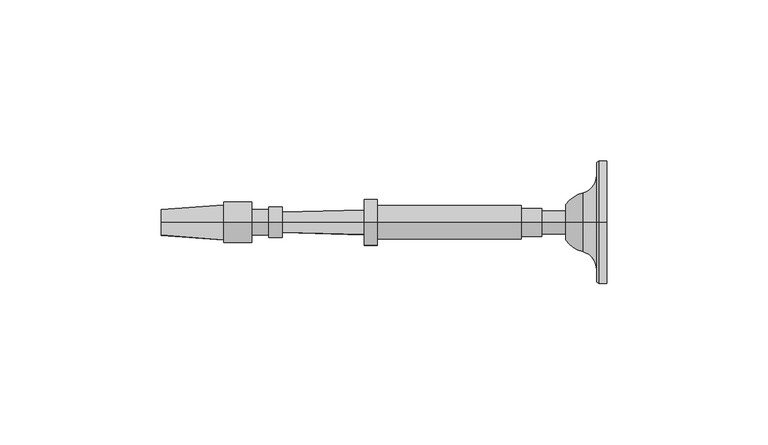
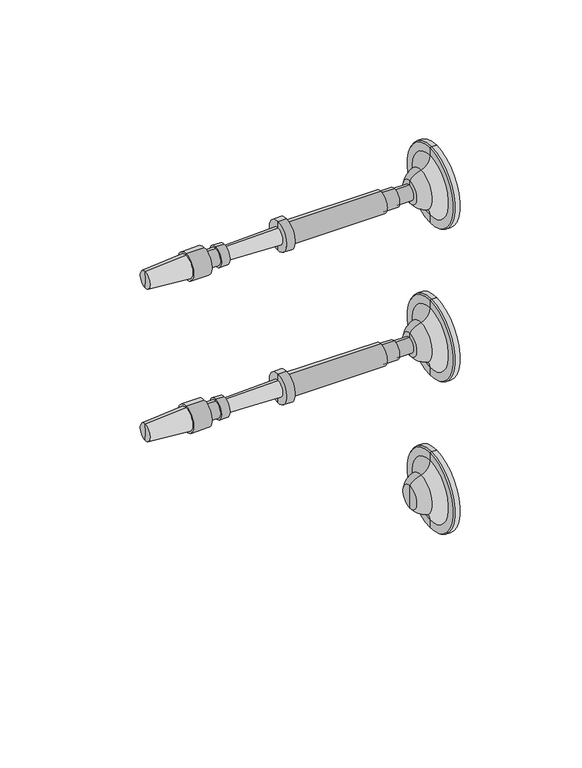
"""IFC4 building model written with IfcOpenShell, lengths in millimetres: railing geometry, RAILEASY CABLE RAILING CORNER TENSIONERS STAIR."""

from ifc_helpers import new_model, si_unit, point, frame, origin, place, context, project, spatial, polyline, circle_curve, ellipse_curve, trimmed, source, transform, mapped, element, save
from ifc_brep_helpers import plane_surface, cylinder_surface, revolved_surface, advanced_brep


def railing_382be00a(model_context):
    return source(origin(), model_context, "Body", "AdvancedBrep", [
        advanced_brep(
        [(4045.1015906, 16706.2866843, 32915.0001631), (4045.1015906, 16706.2866843, 32934.0501631), (4045.1015906, 16706.2866843, 32895.9501631), (4032.408954, 16706.2866843, 32909.4769785), (4032.408954, 16706.2866843, 32920.5233478), (4032.408954, 16706.2866843, 32915.0001631), (4037.6850504, 16706.2866843, 32905.8720381), (4037.6850504, 16706.2866843, 32924.1282881), (4042.0506754, 16706.2866843, 32900.2458254), (4042.0506754, 16706.2866843, 32929.7545009), (4042.0506754, 16706.2866843, 32896.3762941), (4042.0506754, 16706.2866843, 32933.6240321), (4042.7203406, 16706.2866843, 32895.9501631), (4042.7203406, 16706.2866843, 32934.0501631)],
        [
            (0, 1),
            (1, 2, circle_curve(frame((4045.1015906, 16706.2866843, 32915.0001631), z_axis=(1.0, 0.0, 0.0), x_axis=(0.0, 0.0, 1.0)), 19.05)),
            (2, 0),
            (2, 1, circle_curve(frame((4045.1015906, 16706.2866843, 32915.0001631), z_axis=(1.0, 0.0, 0.0), x_axis=(0.0, 0.0, 1.0)), 19.05)),
            (3, 4, circle_curve(frame((4032.408954, 16706.2866843, 32915.0001631), z_axis=(-1.0, 0.0, 0.0), x_axis=(0.0, 0.0, 1.0)), 5.5231846)),
            (4, 5),
            (5, 3),
            (4, 3, circle_curve(frame((4032.408954, 16706.2866843, 32915.0001631), z_axis=(-1.0, 0.0, 0.0), x_axis=(0.0, 0.0, 1.0)), 5.5231846)),
            (6, 7, circle_curve(frame((4037.6850504, 16706.2866843, 32915.0001631), z_axis=(-1.0, 0.0, 0.0), x_axis=(0.0, 0.0, 1.0)), 9.128125)),
            (7, 4, circle_curve(frame((4040.0094591, 16706.2866843, 32915.0628958), z_axis=(0.0, -1.0, 0.0), x_axis=(-1.0, 0.0, 0.0)), 9.3586438)),
            (3, 6, circle_curve(frame((4040.0094591, 16706.2866843, 32914.9374304), z_axis=(0.0, -1.0, 0.0), x_axis=(-1.0, 0.0, 0.0)), 9.3586438)),
            (7, 6, circle_curve(frame((4037.6850504, 16706.2866843, 32915.0001631), z_axis=(-1.0, 0.0, 0.0), x_axis=(0.0, 0.0, 1.0)), 9.128125)),
            (8, 9, circle_curve(frame((4042.0506754, 16706.2866843, 32915.0001631), z_axis=(-1.0, 0.0, 0.0), x_axis=(0.0, 0.0, 1.0)), 14.7543378)),
            (9, 7, circle_curve(frame((4036.2424634, 16706.2866843, 32929.7545009), z_axis=(0.0, 1.0, 0.0), x_axis=(-1.0, 0.0, 0.0)), 5.8082121)),
            (6, 8, circle_curve(frame((4036.2424634, 16706.2866843, 32900.2458254), z_axis=(0.0, 1.0, 0.0), x_axis=(-1.0, 0.0, 0.0)), 5.8082121)),
            (9, 8, circle_curve(frame((4042.0506754, 16706.2866843, 32915.0001631), z_axis=(-1.0, 0.0, 0.0), x_axis=(0.0, 0.0, 1.0)), 14.7543378)),
            (10, 11, circle_curve(frame((4042.0506754, 16706.2866843, 32915.0001631), z_axis=(-1.0, 0.0, 0.0), x_axis=(0.0, 0.0, 1.0)), 18.623869)),
            (11, 9),
            (8, 10),
            (11, 10, circle_curve(frame((4042.0506754, 16706.2866843, 32915.0001631), z_axis=(-1.0, 0.0, 0.0), x_axis=(0.0, 0.0, 1.0)), 18.623869)),
            (12, 13, circle_curve(frame((4042.7203406, 16706.2866843, 32915.0001631), z_axis=(-1.0, 0.0, 0.0), x_axis=(0.0, 0.0, 1.0)), 19.05)),
            (13, 11),
            (10, 12),
            (13, 12, circle_curve(frame((4042.7203406, 16706.2866843, 32915.0001631), z_axis=(-1.0, 0.0, 0.0), x_axis=(0.0, 0.0, 1.0)), 19.05)),
            (1, 13),
            (12, 2),
        ],
        [
            plane_surface(frame((4045.1015906, 16706.2866843, 32915.0001631), z_axis=(1.0, 0.0, 0.0), x_axis=(0.0, 0.0, 1.0))),
            plane_surface(frame((4032.408954, 16706.2866843, 32915.0001631), z_axis=(-1.0, 0.0, 0.0), x_axis=(0.0, 0.0, 1.0))),
            revolved_surface(trimmed(ellipse_curve(frame((4040.0094591, 16706.2866843, 32915.0628958), z_axis=(0.0, 1.0, 0.0), x_axis=(-1.0, 0.0, 0.0)), 9.3586438, 9.3586438), [point((4032.408954, 16706.2866843, 32920.5233478))], [point((4037.6850504, 16706.2866843, 32924.1282881))], True, "CARTESIAN"), (4045.1015906, 16706.2866843, 32915.0001631), (1.0, 0.0, 0.0)),
            revolved_surface(trimmed(ellipse_curve(frame((4036.2424634, 16706.2866843, 32929.7545009), z_axis=(0.0, -1.0, 0.0), x_axis=(-1.0, 0.0, 0.0)), 5.8082121, 5.8082121), [point((4037.6850504, 16706.2866843, 32924.1282881))], [point((4042.0506754, 16706.2866843, 32929.7545009))], True, "CARTESIAN"), (4045.1015906, 16706.2866843, 32915.0001631), (1.0, 0.0, 0.0)),
            plane_surface(frame((4042.0506754, 16706.2866843, 32915.0001631), z_axis=(-1.0, 0.0, 0.0), x_axis=(0.0, 0.0, 1.0))),
            revolved_surface(polyline([(4042.0506754, 16706.2866843, 32933.6240321), (4042.7203406, 16706.2866843, 32934.0501631)]), (4045.1015906, 16706.2866843, 32915.0001631), (1.0, 0.0, 0.0)),
            cylinder_surface(frame((4045.1015906, 16706.2866843, 32915.0001631), z_axis=(1.0, 0.0, 0.0), x_axis=(0.0, 0.0, 1.0)), 19.05),
        ],
        [
            (0, [[1, 2, 3]]),
            (0, [[-3, 4, -1]]),
            (1, [[5, 6, 7]]),
            (1, [[8, -7, -6]]),
            (2, [[9, 10, -5, 11]]),
            (2, [[12, -11, -8, -10]]),
            (3, [[13, 14, -9, 15]]),
            (3, [[16, -15, -12, -14]]),
            (4, [[17, 18, -13, 19]]),
            (4, [[20, -19, -16, -18]]),
            (5, [[21, 22, -17, 23]]),
            (5, [[24, -23, -20, -22]]),
            (6, [[-2, 25, -21, 26]]),
            (6, [[-4, -26, -24, -25]]),
        ],
    ),
        advanced_brep(
        [(4032.408954, 16706.2866843, 32911.4282881), (4032.408954, 16706.2866843, 32915.0001631), (4032.408954, 16706.2866843, 32918.5720381), (3907.4650648, 16706.2866843, 32915.0001631), (3907.1694004, 16706.2866843, 32910.9757028), (3907.1694004, 16706.2866843, 32919.0246235), (3926.5127644, 16706.2866843, 32909.5546072), (3926.5127644, 16706.2866843, 32920.445719), (3926.5127644, 16706.2866843, 32908.6616385), (3926.5127644, 16706.2866843, 32921.3386877), (3935.1447956, 16706.2866843, 32908.6616385), (3935.1447956, 16706.2866843, 32921.3386877), (3935.1447956, 16706.2866843, 32911.0428885), (3935.1447956, 16706.2866843, 32918.9574377), (3940.5026081, 16706.2866843, 32911.0428885), (3940.5026081, 16706.2866843, 32918.9574377), (3940.5026081, 16706.2866843, 32910.2491385), (3940.5026081, 16706.2866843, 32919.7511877), (3944.5705769, 16706.2866843, 32910.2491385), (3944.5705769, 16706.2866843, 32919.7511877), (3944.614664, 16706.2866843, 32911.8360262), (3944.614664, 16706.2866843, 32918.1643), (3970.0048672, 16706.2866843, 32911.1306319), (3970.0048672, 16706.2866843, 32918.8696944), (3970.0048672, 16706.2866843, 32907.8564131), (3970.0048672, 16706.2866843, 32922.1439131), (3973.9736172, 16706.2866843, 32907.8564131), (3973.9736172, 16706.2866843, 32922.1439131), (3973.9736172, 16706.2866843, 32909.8407881), (3973.9736172, 16706.2866843, 32920.1595381), (4018.7212735, 16706.2866843, 32909.8407881), (4018.7212735, 16706.2866843, 32920.1595381), (4018.7212735, 16706.2866843, 32910.6345381), (4018.7212735, 16706.2866843, 32919.3657881), (4025.0712735, 16706.2866843, 32910.6345381), (4025.0712735, 16706.2866843, 32919.3657881), (4025.0712735, 16706.2866843, 32911.4282881), (4025.0712735, 16706.2866843, 32918.5720381)],
        [
            (0, 1),
            (1, 2),
            (2, 0, circle_curve(frame((4032.408954, 16706.2866843, 32915.0001631), z_axis=(1.0, 0.0, 0.0), x_axis=(0.0, 0.0, 1.0000000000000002)), 3.571875)),
            (0, 2, circle_curve(frame((4032.408954, 16706.2866843, 32915.0001631), z_axis=(1.0, 0.0, 0.0), x_axis=(0.0, 0.0, 1.0000000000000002)), 3.571875)),
            (3, 4),
            (4, 5, circle_curve(frame((3907.1694004, 16706.2866843, 32915.0001631), z_axis=(-1.0, 0.0, 0.0), x_axis=(0.0, 0.0, 1.0000000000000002)), 4.0244604)),
            (5, 3),
            (5, 4, circle_curve(frame((3907.1694004, 16706.2866843, 32915.0001631), z_axis=(-1.0, 0.0, 0.0), x_axis=(0.0, 0.0, 1.0000000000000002)), 4.0244604)),
            (4, 6),
            (6, 7, circle_curve(frame((3926.5127644, 16706.2866843, 32915.0001631), z_axis=(-1.0, 0.0, 0.0), x_axis=(0.0, 0.0, 1.0000000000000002)), 5.4455559)),
            (7, 5),
            (7, 6, circle_curve(frame((3926.5127644, 16706.2866843, 32915.0001631), z_axis=(-1.0, 0.0, 0.0), x_axis=(0.0, 0.0, 1.0000000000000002)), 5.4455559)),
            (6, 8),
            (8, 9, circle_curve(frame((3926.5127644, 16706.2866843, 32915.0001631), z_axis=(-1.0, 0.0, 0.0), x_axis=(0.0, 0.0, 1.0000000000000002)), 6.3385246)),
            (9, 7),
            (9, 8, circle_curve(frame((3926.5127644, 16706.2866843, 32915.0001631), z_axis=(-1.0, 0.0, 0.0), x_axis=(0.0, 0.0, 1.0000000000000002)), 6.3385246)),
            (8, 10),
            (10, 11, circle_curve(frame((3935.1447956, 16706.2866843, 32915.0001631), z_axis=(-1.0, 0.0, 0.0), x_axis=(0.0, 0.0, 1.0000000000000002)), 6.3385246)),
            (11, 9),
            (11, 10, circle_curve(frame((3935.1447956, 16706.2866843, 32915.0001631), z_axis=(-1.0, 0.0, 0.0), x_axis=(0.0, 0.0, 1.0000000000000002)), 6.3385246)),
            (10, 12),
            (12, 13, circle_curve(frame((3935.1447956, 16706.2866843, 32915.0001631), z_axis=(-1.0, 0.0, 0.0), x_axis=(0.0, 0.0, 1.0000000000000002)), 3.9572746)),
            (13, 11),
            (13, 12, circle_curve(frame((3935.1447956, 16706.2866843, 32915.0001631), z_axis=(-1.0, 0.0, 0.0), x_axis=(0.0, 0.0, 1.0000000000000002)), 3.9572746)),
            (12, 14),
            (14, 15, circle_curve(frame((3940.5026081, 16706.2866843, 32915.0001631), z_axis=(-1.0, 0.0, 0.0), x_axis=(0.0, 0.0, 1.0000000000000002)), 3.9572746)),
            (15, 13),
            (15, 14, circle_curve(frame((3940.5026081, 16706.2866843, 32915.0001631), z_axis=(-1.0, 0.0, 0.0), x_axis=(0.0, 0.0, 1.0000000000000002)), 3.9572746)),
            (14, 16),
            (16, 17, circle_curve(frame((3940.5026081, 16706.2866843, 32915.0001631), z_axis=(-1.0, 0.0, 0.0), x_axis=(0.0, 0.0, 1.0000000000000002)), 4.7510246)),
            (17, 15),
            (17, 16, circle_curve(frame((3940.5026081, 16706.2866843, 32915.0001631), z_axis=(-1.0, 0.0, 0.0), x_axis=(0.0, 0.0, 1.0000000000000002)), 4.7510246)),
            (16, 18),
            (18, 19, circle_curve(frame((3944.5705769, 16706.2866843, 32915.0001631), z_axis=(-1.0, 0.0, 0.0), x_axis=(0.0, 0.0, 1.0000000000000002)), 4.7510246)),
            (19, 17),
            (19, 18, circle_curve(frame((3944.5705769, 16706.2866843, 32915.0001631), z_axis=(-1.0, 0.0, 0.0), x_axis=(0.0, 0.0, 1.0000000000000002)), 4.7510246)),
            (18, 20),
            (20, 21, circle_curve(frame((3944.614664, 16706.2866843, 32915.0001631), z_axis=(-1.0, 0.0, 0.0), x_axis=(0.0, 0.0, 1.0000000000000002)), 3.1641369)),
            (21, 19),
            (21, 20, circle_curve(frame((3944.614664, 16706.2866843, 32915.0001631), z_axis=(-1.0, 0.0, 0.0), x_axis=(0.0, 0.0, 1.0000000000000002)), 3.1641369)),
            (20, 22),
            (22, 23, circle_curve(frame((3970.0048672, 16706.2866843, 32915.0001631), z_axis=(-1.0, 0.0, 0.0), x_axis=(0.0, 0.0, 1.0000000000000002)), 3.8695313)),
            (23, 21),
            (23, 22, circle_curve(frame((3970.0048672, 16706.2866843, 32915.0001631), z_axis=(-1.0, 0.0, 0.0), x_axis=(0.0, 0.0, 1.0000000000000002)), 3.8695313)),
            (22, 24),
            (24, 25, circle_curve(frame((3970.0048672, 16706.2866843, 32915.0001631), z_axis=(-1.0, 0.0, 0.0), x_axis=(0.0, 0.0, 1.0000000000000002)), 7.14375)),
            (25, 23),
            (25, 24, circle_curve(frame((3970.0048672, 16706.2866843, 32915.0001631), z_axis=(-1.0, 0.0, 0.0), x_axis=(0.0, 0.0, 1.0000000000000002)), 7.14375)),
            (24, 26),
            (26, 27, circle_curve(frame((3973.9736172, 16706.2866843, 32915.0001631), z_axis=(-1.0, 0.0, 0.0), x_axis=(0.0, 0.0, 1.0000000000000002)), 7.14375)),
            (27, 25),
            (27, 26, circle_curve(frame((3973.9736172, 16706.2866843, 32915.0001631), z_axis=(-1.0, 0.0, 0.0), x_axis=(0.0, 0.0, 1.0000000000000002)), 7.14375)),
            (26, 28),
            (28, 29, circle_curve(frame((3973.9736172, 16706.2866843, 32915.0001631), z_axis=(-1.0, 0.0, 0.0), x_axis=(0.0, 0.0, 1.0000000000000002)), 5.159375)),
            (29, 27),
            (29, 28, circle_curve(frame((3973.9736172, 16706.2866843, 32915.0001631), z_axis=(-1.0, 0.0, 0.0), x_axis=(0.0, 0.0, 1.0000000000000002)), 5.159375)),
            (28, 30),
            (30, 31, circle_curve(frame((4018.7212735, 16706.2866843, 32915.0001631), z_axis=(-1.0, 0.0, 0.0), x_axis=(0.0, 0.0, 1.0000000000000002)), 5.159375)),
            (31, 29),
            (31, 30, circle_curve(frame((4018.7212735, 16706.2866843, 32915.0001631), z_axis=(-1.0, 0.0, 0.0), x_axis=(0.0, 0.0, 1.0000000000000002)), 5.159375)),
            (30, 32),
            (32, 33, circle_curve(frame((4018.7212735, 16706.2866843, 32915.0001631), z_axis=(-1.0, 0.0, 0.0), x_axis=(0.0, 0.0, 1.0000000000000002)), 4.365625)),
            (33, 31),
            (33, 32, circle_curve(frame((4018.7212735, 16706.2866843, 32915.0001631), z_axis=(-1.0, 0.0, 0.0), x_axis=(0.0, 0.0, 1.0000000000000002)), 4.365625)),
            (32, 34),
            (34, 35, circle_curve(frame((4025.0712735, 16706.2866843, 32915.0001631), z_axis=(-1.0, 0.0, 0.0), x_axis=(0.0, 0.0, 1.0000000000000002)), 4.365625)),
            (35, 33),
            (35, 34, circle_curve(frame((4025.0712735, 16706.2866843, 32915.0001631), z_axis=(-1.0, 0.0, 0.0), x_axis=(0.0, 0.0, 1.0000000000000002)), 4.365625)),
            (34, 36),
            (36, 37, circle_curve(frame((4025.0712735, 16706.2866843, 32915.0001631), z_axis=(-1.0, 0.0, 0.0), x_axis=(0.0, 0.0, 1.0000000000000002)), 3.571875)),
            (37, 35),
            (37, 36, circle_curve(frame((4025.0712735, 16706.2866843, 32915.0001631), z_axis=(-1.0, 0.0, 0.0), x_axis=(0.0, 0.0, 1.0000000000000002)), 3.571875)),
            (36, 0),
            (2, 37),
        ],
        [
            plane_surface(frame((4032.408954, 16706.2866843, 32915.0001631), z_axis=(1.0, 0.0, 0.0), x_axis=(0.0, 0.0, 1.0))),
            revolved_surface(polyline([(3907.1694004, 16706.2866843, 32919.0246235), (3907.4650648, 16706.2866843, 32915.0001631)]), (3907.4650648, 16706.2866843, 32915.0001631), (-1.0, 0.0, 0.0)),
            revolved_surface(polyline([(3926.5127644, 16706.2866843, 32920.445719), (3907.1694004, 16706.2866843, 32919.0246235)]), (3907.4650648, 16706.2866843, 32915.0001631), (-1.0, 0.0, 0.0)),
            plane_surface(frame((3926.5127644, 16706.2866843, 32915.0001631), z_axis=(-1.0, 0.0, 0.0), x_axis=(0.0, 0.0, 1.0))),
            cylinder_surface(frame((3907.4650648, 16706.2866843, 32915.0001631), z_axis=(-1.0, 0.0, 0.0), x_axis=(0.0, 0.0, 1.0000000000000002)), 6.3385246),
            plane_surface(frame((3935.1447956, 16706.2866843, 32915.0001631), z_axis=(1.0, 0.0, 0.0), x_axis=(0.0, 0.0, 1.0))),
            cylinder_surface(frame((3907.4650648, 16706.2866843, 32915.0001631), z_axis=(-1.0, 0.0, 0.0), x_axis=(0.0, 0.0, 1.0000000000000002)), 3.9572746),
            plane_surface(frame((3940.5026081, 16706.2866843, 32915.0001631), z_axis=(-1.0, 0.0, 0.0), x_axis=(0.0, 0.0, 1.0))),
            cylinder_surface(frame((3907.4650648, 16706.2866843, 32915.0001631), z_axis=(-1.0, 0.0, 0.0), x_axis=(0.0, 0.0, 1.0000000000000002)), 4.7510246),
            plane_surface(frame((3944.614664, 16706.2866843, 32915.0001631), z_axis=(1.0, 0.0, 0.0), x_axis=(0.0, 0.0, 1.0))),
            revolved_surface(polyline([(3970.0048672, 16706.2866843, 32918.8696944), (3944.614664, 16706.2866843, 32918.1643)]), (3907.4650648, 16706.2866843, 32915.0001631), (-1.0, 0.0, 0.0)),
            plane_surface(frame((3970.0048672, 16706.2866843, 32915.0001631), z_axis=(-1.0, 0.0, 0.0), x_axis=(0.0, 0.0, 1.0))),
            cylinder_surface(frame((3907.4650648, 16706.2866843, 32915.0001631), z_axis=(-1.0, 0.0, 0.0), x_axis=(0.0, 0.0, 1.0000000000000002)), 7.14375),
            plane_surface(frame((3973.9736172, 16706.2866843, 32915.0001631), z_axis=(1.0, 0.0, 0.0), x_axis=(0.0, 0.0, 1.0))),
            cylinder_surface(frame((3907.4650648, 16706.2866843, 32915.0001631), z_axis=(-1.0, 0.0, 0.0), x_axis=(0.0, 0.0, 1.0000000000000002)), 5.159375),
            plane_surface(frame((4018.7212735, 16706.2866843, 32915.0001631), z_axis=(1.0, 0.0, 0.0), x_axis=(0.0, 0.0, 1.0))),
            cylinder_surface(frame((3907.4650648, 16706.2866843, 32915.0001631), z_axis=(-1.0, 0.0, 0.0), x_axis=(0.0, 0.0, 1.0000000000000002)), 4.365625),
            plane_surface(frame((4025.0712735, 16706.2866843, 32915.0001631), z_axis=(1.0, 0.0, 0.0), x_axis=(0.0, 0.0, 1.0))),
            cylinder_surface(frame((3907.4650648, 16706.2866843, 32915.0001631), z_axis=(-1.0, 0.0, 0.0), x_axis=(0.0, 0.0, 1.0000000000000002)), 3.571875),
        ],
        [
            (0, [[1, 2, 3]]),
            (0, [[-2, -1, 4]]),
            (1, [[5, 6, 7]]),
            (1, [[-7, 8, -5]]),
            (2, [[9, 10, 11, -6]]),
            (2, [[-11, 12, -9, -8]]),
            (3, [[13, 14, 15, -10]]),
            (3, [[-15, 16, -13, -12]]),
            (4, [[17, 18, 19, -14]]),
            (4, [[-19, 20, -17, -16]]),
            (5, [[21, 22, 23, -18]]),
            (5, [[-23, 24, -21, -20]]),
            (6, [[25, 26, 27, -22]]),
            (6, [[-27, 28, -25, -24]]),
            (7, [[29, 30, 31, -26]]),
            (7, [[-31, 32, -29, -28]]),
            (8, [[33, 34, 35, -30]]),
            (8, [[-35, 36, -33, -32]]),
            (9, [[37, 38, 39, -34]]),
            (9, [[-39, 40, -37, -36]]),
            (10, [[41, 42, 43, -38]]),
            (10, [[-43, 44, -41, -40]]),
            (11, [[45, 46, 47, -42]]),
            (11, [[-47, 48, -45, -44]]),
            (12, [[49, 50, 51, -46]]),
            (12, [[-51, 52, -49, -48]]),
            (13, [[53, 54, 55, -50]]),
            (13, [[-55, 56, -53, -52]]),
            (14, [[57, 58, 59, -54]]),
            (14, [[-59, 60, -57, -56]]),
            (15, [[61, 62, 63, -58]]),
            (15, [[-63, 64, -61, -60]]),
            (16, [[65, 66, 67, -62]]),
            (16, [[-67, 68, -65, -64]]),
            (17, [[69, 70, 71, -66]]),
            (17, [[-71, 72, -69, -68]]),
            (18, [[73, -3, 74, -70]]),
            (18, [[-74, -4, -73, -72]]),
        ],
    ),
        advanced_brep(
        [(4045.1015906, 16706.2866843, 32838.8001631), (4045.1015906, 16706.2866843, 32857.8501631), (4045.1015906, 16706.2866843, 32819.7501631), (4032.408954, 16706.2866843, 32833.2769785), (4032.408954, 16706.2866843, 32844.3233478), (4032.408954, 16706.2866843, 32838.8001631), (4037.6850504, 16706.2866843, 32829.6720381), (4037.6850504, 16706.2866843, 32847.9282881), (4042.0506754, 16706.2866843, 32824.0458254), (4042.0506754, 16706.2866843, 32853.5545009), (4042.0506754, 16706.2866843, 32820.1762941), (4042.0506754, 16706.2866843, 32857.4240321), (4042.7203406, 16706.2866843, 32819.7501631), (4042.7203406, 16706.2866843, 32857.8501631)],
        [
            (0, 1),
            (1, 2, circle_curve(frame((4045.1015906, 16706.2866843, 32838.8001631), z_axis=(1.0, 0.0, 0.0), x_axis=(0.0, 0.0, 1.0)), 19.05)),
            (2, 0),
            (2, 1, circle_curve(frame((4045.1015906, 16706.2866843, 32838.8001631), z_axis=(1.0, 0.0, 0.0), x_axis=(0.0, 0.0, 1.0)), 19.05)),
            (3, 4, circle_curve(frame((4032.408954, 16706.2866843, 32838.8001631), z_axis=(-1.0, 0.0, 0.0), x_axis=(0.0, 0.0, 1.0)), 5.5231846)),
            (4, 5),
            (5, 3),
            (4, 3, circle_curve(frame((4032.408954, 16706.2866843, 32838.8001631), z_axis=(-1.0, 0.0, 0.0), x_axis=(0.0, 0.0, 1.0)), 5.5231846)),
            (6, 7, circle_curve(frame((4037.6850504, 16706.2866843, 32838.8001631), z_axis=(-1.0, 0.0, 0.0), x_axis=(0.0, 0.0, 1.0)), 9.128125)),
            (7, 4, circle_curve(frame((4040.0094591, 16706.2866843, 32838.8628958), z_axis=(0.0, -1.0, 0.0), x_axis=(-1.0, 0.0, 0.0)), 9.3586438)),
            (3, 6, circle_curve(frame((4040.0094591, 16706.2866843, 32838.7374304), z_axis=(0.0, -1.0, 0.0), x_axis=(-1.0, 0.0, 0.0)), 9.3586438)),
            (7, 6, circle_curve(frame((4037.6850504, 16706.2866843, 32838.8001631), z_axis=(-1.0, 0.0, 0.0), x_axis=(0.0, 0.0, 1.0)), 9.128125)),
            (8, 9, circle_curve(frame((4042.0506754, 16706.2866843, 32838.8001631), z_axis=(-1.0, 0.0, 0.0), x_axis=(0.0, 0.0, 1.0)), 14.7543378)),
            (9, 7, circle_curve(frame((4036.2424634, 16706.2866843, 32853.5545009), z_axis=(0.0, 1.0, 0.0), x_axis=(-1.0, 0.0, 0.0)), 5.8082121)),
            (6, 8, circle_curve(frame((4036.2424634, 16706.2866843, 32824.0458254), z_axis=(0.0, 1.0, 0.0), x_axis=(-1.0, 0.0, 0.0)), 5.8082121)),
            (9, 8, circle_curve(frame((4042.0506754, 16706.2866843, 32838.8001631), z_axis=(-1.0, 0.0, 0.0), x_axis=(0.0, 0.0, 1.0)), 14.7543378)),
            (10, 11, circle_curve(frame((4042.0506754, 16706.2866843, 32838.8001631), z_axis=(-1.0, 0.0, 0.0), x_axis=(0.0, 0.0, 1.0)), 18.623869)),
            (11, 9),
            (8, 10),
            (11, 10, circle_curve(frame((4042.0506754, 16706.2866843, 32838.8001631), z_axis=(-1.0, 0.0, 0.0), x_axis=(0.0, 0.0, 1.0)), 18.623869)),
            (12, 13, circle_curve(frame((4042.7203406, 16706.2866843, 32838.8001631), z_axis=(-1.0, 0.0, 0.0), x_axis=(0.0, 0.0, 1.0)), 19.05)),
            (13, 11),
            (10, 12),
            (13, 12, circle_curve(frame((4042.7203406, 16706.2866843, 32838.8001631), z_axis=(-1.0, 0.0, 0.0), x_axis=(0.0, 0.0, 1.0)), 19.05)),
            (1, 13),
            (12, 2),
        ],
        [
            plane_surface(frame((4045.1015906, 16706.2866843, 32838.8001631), z_axis=(1.0, 0.0, 0.0), x_axis=(0.0, 0.0, 1.0))),
            plane_surface(frame((4032.408954, 16706.2866843, 32838.8001631), z_axis=(-1.0, 0.0, 0.0), x_axis=(0.0, 0.0, 1.0))),
            revolved_surface(trimmed(ellipse_curve(frame((4040.0094591, 16706.2866843, 32838.8628958), z_axis=(0.0, 1.0, 0.0), x_axis=(-1.0, 0.0, 0.0)), 9.3586438, 9.3586438), [point((4032.408954, 16706.2866843, 32844.3233478))], [point((4037.6850504, 16706.2866843, 32847.9282881))], True, "CARTESIAN"), (4045.1015906, 16706.2866843, 32838.8001631), (1.0, 0.0, 0.0)),
            revolved_surface(trimmed(ellipse_curve(frame((4036.2424634, 16706.2866843, 32853.5545009), z_axis=(0.0, -1.0, 0.0), x_axis=(-1.0, 0.0, 0.0)), 5.8082121, 5.8082121), [point((4037.6850504, 16706.2866843, 32847.9282881))], [point((4042.0506754, 16706.2866843, 32853.5545009))], True, "CARTESIAN"), (4045.1015906, 16706.2866843, 32838.8001631), (1.0, 0.0, 0.0)),
            plane_surface(frame((4042.0506754, 16706.2866843, 32838.8001631), z_axis=(-1.0, 0.0, 0.0), x_axis=(0.0, 0.0, 1.0))),
            revolved_surface(polyline([(4042.0506754, 16706.2866843, 32857.4240321), (4042.7203406, 16706.2866843, 32857.8501631)]), (4045.1015906, 16706.2866843, 32838.8001631), (1.0, 0.0, 0.0)),
            cylinder_surface(frame((4045.1015906, 16706.2866843, 32838.8001631), z_axis=(1.0, 0.0, 0.0), x_axis=(0.0, 0.0, 1.0)), 19.05),
        ],
        [
            (0, [[1, 2, 3]]),
            (0, [[-3, 4, -1]]),
            (1, [[5, 6, 7]]),
            (1, [[8, -7, -6]]),
            (2, [[9, 10, -5, 11]]),
            (2, [[12, -11, -8, -10]]),
            (3, [[13, 14, -9, 15]]),
            (3, [[16, -15, -12, -14]]),
            (4, [[17, 18, -13, 19]]),
            (4, [[20, -19, -16, -18]]),
            (5, [[21, 22, -17, 23]]),
            (5, [[24, -23, -20, -22]]),
            (6, [[-2, 25, -21, 26]]),
            (6, [[-4, -26, -24, -25]]),
        ],
    ),
        advanced_brep(
        [(4032.408954, 16706.2866843, 32835.2282881), (4032.408954, 16706.2866843, 32838.8001631), (4032.408954, 16706.2866843, 32842.3720381), (3907.4650648, 16706.2866843, 32838.8001631), (3907.1694004, 16706.2866843, 32834.7757028), (3907.1694004, 16706.2866843, 32842.8246235), (3926.5127644, 16706.2866843, 32833.3546072), (3926.5127644, 16706.2866843, 32844.245719), (3926.5127644, 16706.2866843, 32832.4616385), (3926.5127644, 16706.2866843, 32845.1386877), (3935.1447956, 16706.2866843, 32832.4616385), (3935.1447956, 16706.2866843, 32845.1386877), (3935.1447956, 16706.2866843, 32834.8428885), (3935.1447956, 16706.2866843, 32842.7574377), (3940.5026081, 16706.2866843, 32834.8428885), (3940.5026081, 16706.2866843, 32842.7574377), (3940.5026081, 16706.2866843, 32834.0491385), (3940.5026081, 16706.2866843, 32843.5511877), (3944.5705769, 16706.2866843, 32834.0491385), (3944.5705769, 16706.2866843, 32843.5511877), (3944.614664, 16706.2866843, 32835.6360262), (3944.614664, 16706.2866843, 32841.9643), (3970.0048672, 16706.2866843, 32834.9306319), (3970.0048672, 16706.2866843, 32842.6696944), (3970.0048672, 16706.2866843, 32831.6564131), (3970.0048672, 16706.2866843, 32845.9439131), (3973.9736172, 16706.2866843, 32831.6564131), (3973.9736172, 16706.2866843, 32845.9439131), (3973.9736172, 16706.2866843, 32833.6407881), (3973.9736172, 16706.2866843, 32843.9595381), (4018.7212735, 16706.2866843, 32833.6407881), (4018.7212735, 16706.2866843, 32843.9595381), (4018.7212735, 16706.2866843, 32834.4345381), (4018.7212735, 16706.2866843, 32843.1657881), (4025.0712735, 16706.2866843, 32834.4345381), (4025.0712735, 16706.2866843, 32843.1657881), (4025.0712735, 16706.2866843, 32835.2282881), (4025.0712735, 16706.2866843, 32842.3720381)],
        [
            (0, 1),
            (1, 2),
            (2, 0, circle_curve(frame((4032.408954, 16706.2866843, 32838.8001631), z_axis=(1.0, 0.0, 0.0), x_axis=(0.0, 0.0, 1.0000000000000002)), 3.571875)),
            (0, 2, circle_curve(frame((4032.408954, 16706.2866843, 32838.8001631), z_axis=(1.0, 0.0, 0.0), x_axis=(0.0, 0.0, 1.0000000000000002)), 3.571875)),
            (3, 4),
            (4, 5, circle_curve(frame((3907.1694004, 16706.2866843, 32838.8001631), z_axis=(-1.0, 0.0, 0.0), x_axis=(0.0, 0.0, 1.0000000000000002)), 4.0244604)),
            (5, 3),
            (5, 4, circle_curve(frame((3907.1694004, 16706.2866843, 32838.8001631), z_axis=(-1.0, 0.0, 0.0), x_axis=(0.0, 0.0, 1.0000000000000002)), 4.0244604)),
            (4, 6),
            (6, 7, circle_curve(frame((3926.5127644, 16706.2866843, 32838.8001631), z_axis=(-1.0, 0.0, 0.0), x_axis=(0.0, 0.0, 1.0000000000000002)), 5.4455559)),
            (7, 5),
            (7, 6, circle_curve(frame((3926.5127644, 16706.2866843, 32838.8001631), z_axis=(-1.0, 0.0, 0.0), x_axis=(0.0, 0.0, 1.0000000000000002)), 5.4455559)),
            (6, 8),
            (8, 9, circle_curve(frame((3926.5127644, 16706.2866843, 32838.8001631), z_axis=(-1.0, 0.0, 0.0), x_axis=(0.0, 0.0, 1.0000000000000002)), 6.3385246)),
            (9, 7),
            (9, 8, circle_curve(frame((3926.5127644, 16706.2866843, 32838.8001631), z_axis=(-1.0, 0.0, 0.0), x_axis=(0.0, 0.0, 1.0000000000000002)), 6.3385246)),
            (8, 10),
            (10, 11, circle_curve(frame((3935.1447956, 16706.2866843, 32838.8001631), z_axis=(-1.0, 0.0, 0.0), x_axis=(0.0, 0.0, 1.0000000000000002)), 6.3385246)),
            (11, 9),
            (11, 10, circle_curve(frame((3935.1447956, 16706.2866843, 32838.8001631), z_axis=(-1.0, 0.0, 0.0), x_axis=(0.0, 0.0, 1.0000000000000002)), 6.3385246)),
            (10, 12),
            (12, 13, circle_curve(frame((3935.1447956, 16706.2866843, 32838.8001631), z_axis=(-1.0, 0.0, 0.0), x_axis=(0.0, 0.0, 1.0000000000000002)), 3.9572746)),
            (13, 11),
            (13, 12, circle_curve(frame((3935.1447956, 16706.2866843, 32838.8001631), z_axis=(-1.0, 0.0, 0.0), x_axis=(0.0, 0.0, 1.0000000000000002)), 3.9572746)),
            (12, 14),
            (14, 15, circle_curve(frame((3940.5026081, 16706.2866843, 32838.8001631), z_axis=(-1.0, 0.0, 0.0), x_axis=(0.0, 0.0, 1.0000000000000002)), 3.9572746)),
            (15, 13),
            (15, 14, circle_curve(frame((3940.5026081, 16706.2866843, 32838.8001631), z_axis=(-1.0, 0.0, 0.0), x_axis=(0.0, 0.0, 1.0000000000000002)), 3.9572746)),
            (14, 16),
            (16, 17, circle_curve(frame((3940.5026081, 16706.2866843, 32838.8001631), z_axis=(-1.0, 0.0, 0.0), x_axis=(0.0, 0.0, 1.0000000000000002)), 4.7510246)),
            (17, 15),
            (17, 16, circle_curve(frame((3940.5026081, 16706.2866843, 32838.8001631), z_axis=(-1.0, 0.0, 0.0), x_axis=(0.0, 0.0, 1.0000000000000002)), 4.7510246)),
            (16, 18),
            (18, 19, circle_curve(frame((3944.5705769, 16706.2866843, 32838.8001631), z_axis=(-1.0, 0.0, 0.0), x_axis=(0.0, 0.0, 1.0000000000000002)), 4.7510246)),
            (19, 17),
            (19, 18, circle_curve(frame((3944.5705769, 16706.2866843, 32838.8001631), z_axis=(-1.0, 0.0, 0.0), x_axis=(0.0, 0.0, 1.0000000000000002)), 4.7510246)),
            (18, 20),
            (20, 21, circle_curve(frame((3944.614664, 16706.2866843, 32838.8001631), z_axis=(-1.0, 0.0, 0.0), x_axis=(0.0, 0.0, 1.0000000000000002)), 3.1641369)),
            (21, 19),
            (21, 20, circle_curve(frame((3944.614664, 16706.2866843, 32838.8001631), z_axis=(-1.0, 0.0, 0.0), x_axis=(0.0, 0.0, 1.0000000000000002)), 3.1641369)),
            (20, 22),
            (22, 23, circle_curve(frame((3970.0048672, 16706.2866843, 32838.8001631), z_axis=(-1.0, 0.0, 0.0), x_axis=(0.0, 0.0, 1.0000000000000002)), 3.8695313)),
            (23, 21),
            (23, 22, circle_curve(frame((3970.0048672, 16706.2866843, 32838.8001631), z_axis=(-1.0, 0.0, 0.0), x_axis=(0.0, 0.0, 1.0000000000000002)), 3.8695313)),
            (22, 24),
            (24, 25, circle_curve(frame((3970.0048672, 16706.2866843, 32838.8001631), z_axis=(-1.0, 0.0, 0.0), x_axis=(0.0, 0.0, 1.0000000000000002)), 7.14375)),
            (25, 23),
            (25, 24, circle_curve(frame((3970.0048672, 16706.2866843, 32838.8001631), z_axis=(-1.0, 0.0, 0.0), x_axis=(0.0, 0.0, 1.0000000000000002)), 7.14375)),
            (24, 26),
            (26, 27, circle_curve(frame((3973.9736172, 16706.2866843, 32838.8001631), z_axis=(-1.0, 0.0, 0.0), x_axis=(0.0, 0.0, 1.0000000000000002)), 7.14375)),
            (27, 25),
            (27, 26, circle_curve(frame((3973.9736172, 16706.2866843, 32838.8001631), z_axis=(-1.0, 0.0, 0.0), x_axis=(0.0, 0.0, 1.0000000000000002)), 7.14375)),
            (26, 28),
            (28, 29, circle_curve(frame((3973.9736172, 16706.2866843, 32838.8001631), z_axis=(-1.0, 0.0, 0.0), x_axis=(0.0, 0.0, 1.0000000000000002)), 5.159375)),
            (29, 27),
            (29, 28, circle_curve(frame((3973.9736172, 16706.2866843, 32838.8001631), z_axis=(-1.0, 0.0, 0.0), x_axis=(0.0, 0.0, 1.0000000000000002)), 5.159375)),
            (28, 30),
            (30, 31, circle_curve(frame((4018.7212735, 16706.2866843, 32838.8001631), z_axis=(-1.0, 0.0, 0.0), x_axis=(0.0, 0.0, 1.0000000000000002)), 5.159375)),
            (31, 29),
            (31, 30, circle_curve(frame((4018.7212735, 16706.2866843, 32838.8001631), z_axis=(-1.0, 0.0, 0.0), x_axis=(0.0, 0.0, 1.0000000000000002)), 5.159375)),
            (30, 32),
            (32, 33, circle_curve(frame((4018.7212735, 16706.2866843, 32838.8001631), z_axis=(-1.0, 0.0, 0.0), x_axis=(0.0, 0.0, 1.0000000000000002)), 4.365625)),
            (33, 31),
            (33, 32, circle_curve(frame((4018.7212735, 16706.2866843, 32838.8001631), z_axis=(-1.0, 0.0, 0.0), x_axis=(0.0, 0.0, 1.0000000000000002)), 4.365625)),
            (32, 34),
            (34, 35, circle_curve(frame((4025.0712735, 16706.2866843, 32838.8001631), z_axis=(-1.0, 0.0, 0.0), x_axis=(0.0, 0.0, 1.0000000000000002)), 4.365625)),
            (35, 33),
            (35, 34, circle_curve(frame((4025.0712735, 16706.2866843, 32838.8001631), z_axis=(-1.0, 0.0, 0.0), x_axis=(0.0, 0.0, 1.0000000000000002)), 4.365625)),
            (34, 36),
            (36, 37, circle_curve(frame((4025.0712735, 16706.2866843, 32838.8001631), z_axis=(-1.0, 0.0, 0.0), x_axis=(0.0, 0.0, 1.0000000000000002)), 3.571875)),
            (37, 35),
            (37, 36, circle_curve(frame((4025.0712735, 16706.2866843, 32838.8001631), z_axis=(-1.0, 0.0, 0.0), x_axis=(0.0, 0.0, 1.0000000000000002)), 3.571875)),
            (36, 0),
            (2, 37),
        ],
        [
            plane_surface(frame((4032.408954, 16706.2866843, 32838.8001631), z_axis=(1.0, 0.0, 0.0), x_axis=(0.0, 0.0, 1.0))),
            revolved_surface(polyline([(3907.1694004, 16706.2866843, 32842.8246235), (3907.4650648, 16706.2866843, 32838.8001631)]), (3907.4650648, 16706.2866843, 32838.8001631), (-1.0, 0.0, 0.0)),
            revolved_surface(polyline([(3926.5127644, 16706.2866843, 32844.245719), (3907.1694004, 16706.2866843, 32842.8246235)]), (3907.4650648, 16706.2866843, 32838.8001631), (-1.0, 0.0, 0.0)),
            plane_surface(frame((3926.5127644, 16706.2866843, 32838.8001631), z_axis=(-1.0, 0.0, 0.0), x_axis=(0.0, 0.0, 1.0))),
            cylinder_surface(frame((3907.4650648, 16706.2866843, 32838.8001631), z_axis=(-1.0, 0.0, 0.0), x_axis=(0.0, 0.0, 1.0000000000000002)), 6.3385246),
            plane_surface(frame((3935.1447956, 16706.2866843, 32838.8001631), z_axis=(1.0, 0.0, 0.0), x_axis=(0.0, 0.0, 1.0))),
            cylinder_surface(frame((3907.4650648, 16706.2866843, 32838.8001631), z_axis=(-1.0, 0.0, 0.0), x_axis=(0.0, 0.0, 1.0000000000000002)), 3.9572746),
            plane_surface(frame((3940.5026081, 16706.2866843, 32838.8001631), z_axis=(-1.0, 0.0, 0.0), x_axis=(0.0, 0.0, 1.0))),
            cylinder_surface(frame((3907.4650648, 16706.2866843, 32838.8001631), z_axis=(-1.0, 0.0, 0.0), x_axis=(0.0, 0.0, 1.0000000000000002)), 4.7510246),
            plane_surface(frame((3944.614664, 16706.2866843, 32838.8001631), z_axis=(1.0, 0.0, 0.0), x_axis=(0.0, 0.0, 1.0))),
            revolved_surface(polyline([(3970.0048672, 16706.2866843, 32842.6696944), (3944.614664, 16706.2866843, 32841.9643)]), (3907.4650648, 16706.2866843, 32838.8001631), (-1.0, 0.0, 0.0)),
            plane_surface(frame((3970.0048672, 16706.2866843, 32838.8001631), z_axis=(-1.0, 0.0, 0.0), x_axis=(0.0, 0.0, 1.0))),
            cylinder_surface(frame((3907.4650648, 16706.2866843, 32838.8001631), z_axis=(-1.0, 0.0, 0.0), x_axis=(0.0, 0.0, 1.0000000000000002)), 7.14375),
            plane_surface(frame((3973.9736172, 16706.2866843, 32838.8001631), z_axis=(1.0, 0.0, 0.0), x_axis=(0.0, 0.0, 1.0))),
            cylinder_surface(frame((3907.4650648, 16706.2866843, 32838.8001631), z_axis=(-1.0, 0.0, 0.0), x_axis=(0.0, 0.0, 1.0000000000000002)), 5.159375),
            plane_surface(frame((4018.7212735, 16706.2866843, 32838.8001631), z_axis=(1.0, 0.0, 0.0), x_axis=(0.0, 0.0, 1.0))),
            cylinder_surface(frame((3907.4650648, 16706.2866843, 32838.8001631), z_axis=(-1.0, 0.0, 0.0), x_axis=(0.0, 0.0, 1.0000000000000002)), 4.365625),
            plane_surface(frame((4025.0712735, 16706.2866843, 32838.8001631), z_axis=(1.0, 0.0, 0.0), x_axis=(0.0, 0.0, 1.0))),
            cylinder_surface(frame((3907.4650648, 16706.2866843, 32838.8001631), z_axis=(-1.0, 0.0, 0.0), x_axis=(0.0, 0.0, 1.0000000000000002)), 3.571875),
        ],
        [
            (0, [[1, 2, 3]]),
            (0, [[-2, -1, 4]]),
            (1, [[5, 6, 7]]),
            (1, [[-7, 8, -5]]),
            (2, [[9, 10, 11, -6]]),
            (2, [[-11, 12, -9, -8]]),
            (3, [[13, 14, 15, -10]]),
            (3, [[-15, 16, -13, -12]]),
            (4, [[17, 18, 19, -14]]),
            (4, [[-19, 20, -17, -16]]),
            (5, [[21, 22, 23, -18]]),
            (5, [[-23, 24, -21, -20]]),
            (6, [[25, 26, 27, -22]]),
            (6, [[-27, 28, -25, -24]]),
            (7, [[29, 30, 31, -26]]),
            (7, [[-31, 32, -29, -28]]),
            (8, [[33, 34, 35, -30]]),
            (8, [[-35, 36, -33, -32]]),
            (9, [[37, 38, 39, -34]]),
            (9, [[-39, 40, -37, -36]]),
            (10, [[41, 42, 43, -38]]),
            (10, [[-43, 44, -41, -40]]),
            (11, [[45, 46, 47, -42]]),
            (11, [[-47, 48, -45, -44]]),
            (12, [[49, 50, 51, -46]]),
            (12, [[-51, 52, -49, -48]]),
            (13, [[53, 54, 55, -50]]),
            (13, [[-55, 56, -53, -52]]),
            (14, [[57, 58, 59, -54]]),
            (14, [[-59, 60, -57, -56]]),
            (15, [[61, 62, 63, -58]]),
            (15, [[-63, 64, -61, -60]]),
            (16, [[65, 66, 67, -62]]),
            (16, [[-67, 68, -65, -64]]),
            (17, [[69, 70, 71, -66]]),
            (17, [[-71, 72, -69, -68]]),
            (18, [[73, -3, 74, -70]]),
            (18, [[-74, -4, -73, -72]]),
        ],
    ),
        advanced_brep(
        [(4045.1015906, 16706.2866843, 32762.6001631), (4045.1015906, 16706.2866843, 32781.6501631), (4045.1015906, 16706.2866843, 32743.5501631), (4032.408954, 16706.2866843, 32757.0769785), (4032.408954, 16706.2866843, 32768.1233478), (4032.408954, 16706.2866843, 32762.6001631), (4037.6850504, 16706.2866843, 32753.4720381), (4037.6850504, 16706.2866843, 32771.7282881), (4042.0506754, 16706.2866843, 32747.8458254), (4042.0506754, 16706.2866843, 32777.3545009), (4042.0506754, 16706.2866843, 32743.9762941), (4042.0506754, 16706.2866843, 32781.2240321), (4042.7203406, 16706.2866843, 32743.5501631), (4042.7203406, 16706.2866843, 32781.6501631)],
        [
            (0, 1),
            (1, 2, circle_curve(frame((4045.1015906, 16706.2866843, 32762.6001631), z_axis=(1.0, 0.0, 0.0), x_axis=(0.0, 0.0, 1.0)), 19.05)),
            (2, 0),
            (2, 1, circle_curve(frame((4045.1015906, 16706.2866843, 32762.6001631), z_axis=(1.0, 0.0, 0.0), x_axis=(0.0, 0.0, 1.0)), 19.05)),
            (3, 4, circle_curve(frame((4032.408954, 16706.2866843, 32762.6001631), z_axis=(-1.0, 0.0, 0.0), x_axis=(0.0, 0.0, 1.0)), 5.5231846)),
            (4, 5),
            (5, 3),
            (4, 3, circle_curve(frame((4032.408954, 16706.2866843, 32762.6001631), z_axis=(-1.0, 0.0, 0.0), x_axis=(0.0, 0.0, 1.0)), 5.5231846)),
            (6, 7, circle_curve(frame((4037.6850504, 16706.2866843, 32762.6001631), z_axis=(-1.0, 0.0, 0.0), x_axis=(0.0, 0.0, 1.0)), 9.128125)),
            (7, 4, circle_curve(frame((4040.0094591, 16706.2866843, 32762.6628958), z_axis=(0.0, -1.0, 0.0), x_axis=(-1.0, 0.0, 0.0)), 9.3586438)),
            (3, 6, circle_curve(frame((4040.0094591, 16706.2866843, 32762.5374304), z_axis=(0.0, -1.0, 0.0), x_axis=(-1.0, 0.0, 0.0)), 9.3586438)),
            (7, 6, circle_curve(frame((4037.6850504, 16706.2866843, 32762.6001631), z_axis=(-1.0, 0.0, 0.0), x_axis=(0.0, 0.0, 1.0)), 9.128125)),
            (8, 9, circle_curve(frame((4042.0506754, 16706.2866843, 32762.6001631), z_axis=(-1.0, 0.0, 0.0), x_axis=(0.0, 0.0, 1.0)), 14.7543378)),
            (9, 7, circle_curve(frame((4036.2424634, 16706.2866843, 32777.3545009), z_axis=(0.0, 1.0, 0.0), x_axis=(-1.0, 0.0, 0.0)), 5.8082121)),
            (6, 8, circle_curve(frame((4036.2424634, 16706.2866843, 32747.8458254), z_axis=(0.0, 1.0, 0.0), x_axis=(-1.0, 0.0, 0.0)), 5.8082121)),
            (9, 8, circle_curve(frame((4042.0506754, 16706.2866843, 32762.6001631), z_axis=(-1.0, 0.0, 0.0), x_axis=(0.0, 0.0, 1.0)), 14.7543378)),
            (10, 11, circle_curve(frame((4042.0506754, 16706.2866843, 32762.6001631), z_axis=(-1.0, 0.0, 0.0), x_axis=(0.0, 0.0, 1.0)), 18.623869)),
            (11, 9),
            (8, 10),
            (11, 10, circle_curve(frame((4042.0506754, 16706.2866843, 32762.6001631), z_axis=(-1.0, 0.0, 0.0), x_axis=(0.0, 0.0, 1.0)), 18.623869)),
            (12, 13, circle_curve(frame((4042.7203406, 16706.2866843, 32762.6001631), z_axis=(-1.0, 0.0, 0.0), x_axis=(0.0, 0.0, 1.0)), 19.05)),
            (13, 11),
            (10, 12),
            (13, 12, circle_curve(frame((4042.7203406, 16706.2866843, 32762.6001631), z_axis=(-1.0, 0.0, 0.0), x_axis=(0.0, 0.0, 1.0)), 19.05)),
            (1, 13),
            (12, 2),
        ],
        [
            plane_surface(frame((4045.1015906, 16706.2866843, 32762.6001631), z_axis=(1.0, 0.0, 0.0), x_axis=(0.0, 0.0, 1.0))),
            plane_surface(frame((4032.408954, 16706.2866843, 32762.6001631), z_axis=(-1.0, 0.0, 0.0), x_axis=(0.0, 0.0, 1.0))),
            revolved_surface(trimmed(ellipse_curve(frame((4040.0094591, 16706.2866843, 32762.6628958), z_axis=(0.0, 1.0, 0.0), x_axis=(-1.0, 0.0, 0.0)), 9.3586438, 9.3586438), [point((4032.408954, 16706.2866843, 32768.1233478))], [point((4037.6850504, 16706.2866843, 32771.7282881))], True, "CARTESIAN"), (4045.1015906, 16706.2866843, 32762.6001631), (1.0, 0.0, 0.0)),
            revolved_surface(trimmed(ellipse_curve(frame((4036.2424634, 16706.2866843, 32777.3545009), z_axis=(0.0, -1.0, 0.0), x_axis=(-1.0, 0.0, 0.0)), 5.8082121, 5.8082121), [point((4037.6850504, 16706.2866843, 32771.7282881))], [point((4042.0506754, 16706.2866843, 32777.3545009))], True, "CARTESIAN"), (4045.1015906, 16706.2866843, 32762.6001631), (1.0, 0.0, 0.0)),
            plane_surface(frame((4042.0506754, 16706.2866843, 32762.6001631), z_axis=(-1.0, 0.0, 0.0), x_axis=(0.0, 0.0, 1.0))),
            revolved_surface(polyline([(4042.0506754, 16706.2866843, 32781.2240321), (4042.7203406, 16706.2866843, 32781.6501631)]), (4045.1015906, 16706.2866843, 32762.6001631), (1.0, 0.0, 0.0)),
            cylinder_surface(frame((4045.1015906, 16706.2866843, 32762.6001631), z_axis=(1.0, 0.0, 0.0), x_axis=(0.0, 0.0, 1.0)), 19.05),
        ],
        [
            (0, [[1, 2, 3]]),
            (0, [[-3, 4, -1]]),
            (1, [[5, 6, 7]]),
            (1, [[8, -7, -6]]),
            (2, [[9, 10, -5, 11]]),
            (2, [[12, -11, -8, -10]]),
            (3, [[13, 14, -9, 15]]),
            (3, [[16, -15, -12, -14]]),
            (4, [[17, 18, -13, 19]]),
            (4, [[20, -19, -16, -18]]),
            (5, [[21, 22, -17, 23]]),
            (5, [[24, -23, -20, -22]]),
            (6, [[-2, 25, -21, 26]]),
            (6, [[-4, -26, -24, -25]]),
        ],
    ),
    ])


if __name__ == "__main__":
    model = new_model("IFC4")
    model_context = context("Model", 3, world=origin())
    ifc_project = project(units=[si_unit("LENGTHUNIT", "METRE", prefix="MILLI")], contexts=[model_context])
    site = spatial("IfcSite", under=ifc_project)
    building = spatial("IfcBuilding", under=site)
    placement = place(None, origin())
    railing_shape = railing_382be00a(model_context)
    element("IfcRailing", 1, ObjectType="RAILEASY CABLE RAILING CORNER TENSIONERS STAIR", at=placement, inside=building, context=model_context, shape_type="MappedRepresentation", body=[
        mapped(railing_shape, transform((0.0, 0.0, 0.0), x_axis=(1.0, 0.0, 0.0), y_axis=(0.0, 1.0, 0.0), z_axis=(0.0, 0.0, 1.0))),
    ])
    save(model, "model.ifc")
